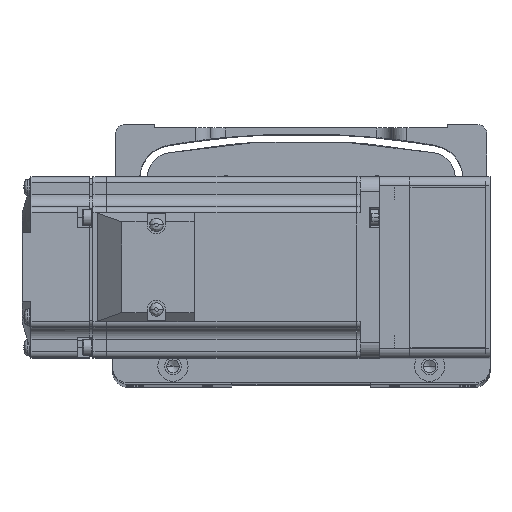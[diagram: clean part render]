
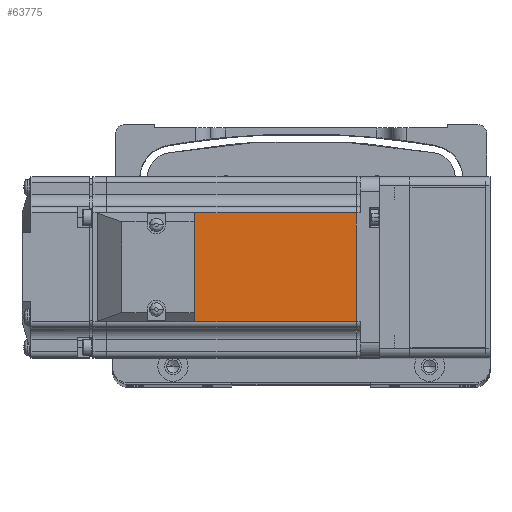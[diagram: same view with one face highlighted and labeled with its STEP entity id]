
A CAD part, top view. The second image highlights one B-rep face of the part: STEP entity #63775.
In plain terms, the highlighted planar face has unit normal (0, 0, 1) as drawn and (0, 1, 0) by its records, which use the part's own axes.
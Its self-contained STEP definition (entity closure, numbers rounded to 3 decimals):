
#1685 = ORIENTED_EDGE ( 'NONE', *, *, #63402, .T. ) ;
#2733 = DIRECTION ( 'NONE',  ( 1., 0., 0. ) ) ;
#5033 = CARTESIAN_POINT ( 'NONE',  ( -7.75, 30., 18. ) ) ;
#7334 = ORIENTED_EDGE ( 'NONE', *, *, #36925, .F. ) ;
#8897 = DIRECTION ( 'NONE',  ( -1., 0., 0. ) ) ;
#8996 = CARTESIAN_POINT ( 'NONE',  ( -6.5, 30., 18. ) ) ;
#12476 = VERTEX_POINT ( 'NONE', #70367 ) ;
#13803 = VERTEX_POINT ( 'NONE', #34310 ) ;
#17657 = ORIENTED_EDGE ( 'NONE', *, *, #63894, .T. ) ;
#22472 = LINE ( 'NONE', #58343, #53746 ) ;
#25229 = VERTEX_POINT ( 'NONE', #30899 ) ;
#26073 = CARTESIAN_POINT ( 'NONE',  ( -6.5, 30., 25. ) ) ;
#29423 = VECTOR ( 'NONE', #2733, 1000. ) ;
#29606 = VECTOR ( 'NONE', #38379, 1000. ) ;
#30899 = CARTESIAN_POINT ( 'NONE',  ( -90.45, 30., -18. ) ) ;
#32096 = CARTESIAN_POINT ( 'NONE',  ( -7.75, 30., 0. ) ) ;
#32383 = DIRECTION ( 'NONE',  ( 0., 0., 1. ) ) ;
#32682 = VECTOR ( 'NONE', #33019, 1000. ) ;
#33019 = DIRECTION ( 'NONE',  ( 0., 0., 1. ) ) ;
#33674 = VERTEX_POINT ( 'NONE', #5033 ) ;
#34310 = CARTESIAN_POINT ( 'NONE',  ( -90.45, 30., 18. ) ) ;
#36427 = EDGE_CURVE ( 'NONE', #25229, #13803, #57156, .T. ) ;
#36925 = EDGE_CURVE ( 'NONE', #12476, #33674, #62902, .T. ) ;
#38379 = DIRECTION ( 'NONE',  ( 0., 0., 1. ) ) ;
#40274 = AXIS2_PLACEMENT_3D ( 'NONE', #26073, #69873, #32383 ) ;
#42062 = FACE_OUTER_BOUND ( 'NONE', #46131, .T. ) ;
#46131 = EDGE_LOOP ( 'NONE', ( #7334, #17657, #61464, #1685 ) ) ;
#53746 = VECTOR ( 'NONE', #8897, 1000. ) ;
#57156 = LINE ( 'NONE', #64429, #32682 ) ;
#58343 = CARTESIAN_POINT ( 'NONE',  ( -6.5, 30., -18. ) ) ;
#61464 = ORIENTED_EDGE ( 'NONE', *, *, #36427, .T. ) ;
#62726 = LINE ( 'NONE', #8996, #29423 ) ;
#62902 = LINE ( 'NONE', #32096, #29606 ) ;
#63402 = EDGE_CURVE ( 'NONE', #13803, #33674, #62726, .T. ) ;
#63775 = ADVANCED_FACE ( 'NONE', ( #42062 ), #69592, .T. ) ;
#63894 = EDGE_CURVE ( 'NONE', #12476, #25229, #22472, .T. ) ;
#64429 = CARTESIAN_POINT ( 'NONE',  ( -90.45, 30., 0. ) ) ;
#69592 = PLANE ( 'NONE',  #40274 ) ;
#69873 = DIRECTION ( 'NONE',  ( 0., 1., 0. ) ) ;
#70367 = CARTESIAN_POINT ( 'NONE',  ( -7.75, 30., -18. ) ) ;
